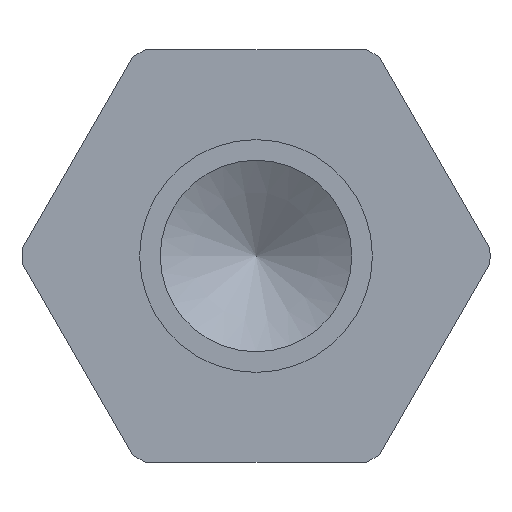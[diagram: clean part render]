
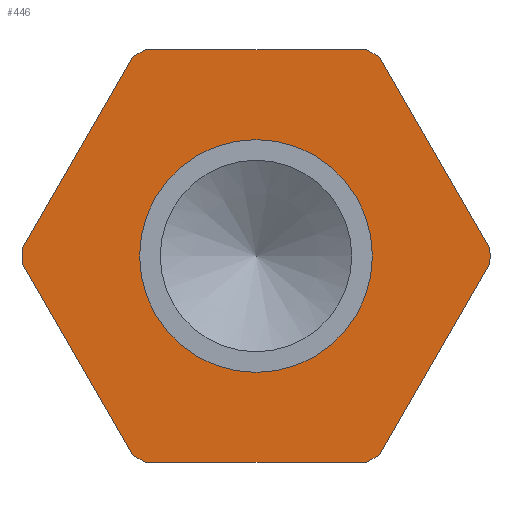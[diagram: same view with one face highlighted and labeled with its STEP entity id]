
A CAD part, left-side view. The second image highlights one B-rep face of the part: STEP entity #446.
In plain terms, the highlighted planar face has unit normal (-1, 0, 0).
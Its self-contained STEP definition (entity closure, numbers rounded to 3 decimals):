
#19=LINE($,#711,#43);
#22=LINE($,#717,#46);
#25=LINE($,#723,#49);
#28=LINE($,#729,#52);
#31=LINE($,#735,#55);
#33=LINE($,#743,#57);
#43=VECTOR($,#567,3.394);
#46=VECTOR($,#572,3.394);
#49=VECTOR($,#577,3.394);
#52=VECTOR($,#582,3.394);
#55=VECTOR($,#587,3.394);
#57=VECTOR($,#595,3.394);
#67=PLANE($,#489);
#79=FACE_BOUND($,#147,.T.);
#80=FACE_BOUND($,#148,.T.);
#147=EDGE_LOOP($,(#339));
#148=EDGE_LOOP($,(#340,#341,#342,#343,#344,#345,#346,#347,#348,#349,#350,
#351));
#191=CIRCLE($,#490,1.791);
#192=CIRCLE($,#491,3.6);
#193=CIRCLE($,#492,3.6);
#194=CIRCLE($,#493,3.6);
#195=CIRCLE($,#494,3.6);
#196=CIRCLE($,#495,3.6);
#197=CIRCLE($,#496,3.6);
#225=VERTEX_POINT($,#708);
#226=VERTEX_POINT($,#710);
#227=VERTEX_POINT($,#714);
#228=VERTEX_POINT($,#716);
#229=VERTEX_POINT($,#720);
#230=VERTEX_POINT($,#722);
#231=VERTEX_POINT($,#726);
#232=VERTEX_POINT($,#728);
#233=VERTEX_POINT($,#732);
#234=VERTEX_POINT($,#734);
#235=VERTEX_POINT($,#738);
#236=VERTEX_POINT($,#740);
#237=VERTEX_POINT($,#742);
#266=EDGE_CURVE($,#226,#225,#19,.T.);
#269=EDGE_CURVE($,#228,#227,#22,.T.);
#272=EDGE_CURVE($,#230,#229,#25,.T.);
#275=EDGE_CURVE($,#232,#231,#28,.T.);
#278=EDGE_CURVE($,#234,#233,#31,.T.);
#280=EDGE_CURVE($,#235,#235,#191,.T.);
#281=EDGE_CURVE($,#225,#236,#192,.T.);
#282=EDGE_CURVE($,#236,#237,#33,.T.);
#283=EDGE_CURVE($,#237,#234,#193,.T.);
#284=EDGE_CURVE($,#233,#232,#194,.T.);
#285=EDGE_CURVE($,#231,#230,#195,.T.);
#286=EDGE_CURVE($,#229,#228,#196,.T.);
#287=EDGE_CURVE($,#227,#226,#197,.T.);
#339=ORIENTED_EDGE($,*,*,#280,.F.);
#340=ORIENTED_EDGE($,*,*,#266,.T.);
#341=ORIENTED_EDGE($,*,*,#281,.T.);
#342=ORIENTED_EDGE($,*,*,#282,.T.);
#343=ORIENTED_EDGE($,*,*,#283,.T.);
#344=ORIENTED_EDGE($,*,*,#278,.T.);
#345=ORIENTED_EDGE($,*,*,#284,.T.);
#346=ORIENTED_EDGE($,*,*,#275,.T.);
#347=ORIENTED_EDGE($,*,*,#285,.T.);
#348=ORIENTED_EDGE($,*,*,#272,.T.);
#349=ORIENTED_EDGE($,*,*,#286,.T.);
#350=ORIENTED_EDGE($,*,*,#269,.T.);
#351=ORIENTED_EDGE($,*,*,#287,.T.);
#446=ADVANCED_FACE($,(#79,#80),#67,.T.);
#489=AXIS2_PLACEMENT_3D($,#737,#589,#590);
#490=AXIS2_PLACEMENT_3D($,#739,#591,#592);
#491=AXIS2_PLACEMENT_3D($,#741,#593,#594);
#492=AXIS2_PLACEMENT_3D($,#744,#596,#597);
#493=AXIS2_PLACEMENT_3D($,#745,#598,#599);
#494=AXIS2_PLACEMENT_3D($,#746,#600,#601);
#495=AXIS2_PLACEMENT_3D($,#747,#602,#603);
#496=AXIS2_PLACEMENT_3D($,#748,#604,#605);
#567=DIRECTION($,(0.,1.,0.));
#572=DIRECTION($,(0.,0.5,0.866));
#577=DIRECTION($,(0.,-0.5,0.866));
#582=DIRECTION($,(0.,-1.,0.));
#587=DIRECTION($,(0.,-0.5,-0.866));
#589=DIRECTION('center_axis',(-1.,0.,0.));
#590=DIRECTION('ref_axis',(0.,-0.866,-0.5));
#591=DIRECTION('center_axis',(-1.,0.,0.));
#592=DIRECTION('ref_axis',(0.,-0.5,0.866));
#593=DIRECTION('center_axis',(-1.,0.,0.));
#594=DIRECTION('ref_axis',(0.,-0.5,0.866));
#595=DIRECTION($,(0.,0.5,-0.866));
#596=DIRECTION('center_axis',(-1.,0.,0.));
#597=DIRECTION('ref_axis',(0.,-0.5,0.866));
#598=DIRECTION('center_axis',(-1.,0.,0.));
#599=DIRECTION('ref_axis',(0.,-0.5,0.866));
#600=DIRECTION('center_axis',(-1.,0.,0.));
#601=DIRECTION('ref_axis',(0.,-0.5,0.866));
#602=DIRECTION('center_axis',(-1.,0.,0.));
#603=DIRECTION('ref_axis',(0.,-0.5,0.866));
#604=DIRECTION('center_axis',(-1.,0.,0.));
#605=DIRECTION('ref_axis',(0.,-0.5,0.866));
#708=CARTESIAN_POINT('',(-15.281,3.832,3.175));
#710=CARTESIAN_POINT('',(-15.281,0.439,3.175));
#711=CARTESIAN_POINT($,(-15.281,1.466,3.175));
#714=CARTESIAN_POINT('',(-15.281,0.234,3.057));
#716=CARTESIAN_POINT('',(-15.281,-1.463,0.118));
#717=CARTESIAN_POINT($,(-15.281,-0.275,2.175));
#720=CARTESIAN_POINT('',(-15.281,-1.463,-0.118));
#722=CARTESIAN_POINT('',(-15.281,0.234,-3.057));
#723=CARTESIAN_POINT($,(-15.281,-1.29,-0.417));
#726=CARTESIAN_POINT('',(-15.281,0.439,-3.175));
#728=CARTESIAN_POINT('',(-15.281,3.832,-3.175));
#729=CARTESIAN_POINT($,(-15.281,1.457,-3.175));
#732=CARTESIAN_POINT('',(-15.281,4.037,-3.057));
#734=CARTESIAN_POINT('',(-15.281,5.734,-0.118));
#735=CARTESIAN_POINT($,(-15.281,5.22,-1.008));
#737=CARTESIAN_POINT('Origin',(-15.281,0.788,2.334));
#738=CARTESIAN_POINT('',(-15.281,1.24,1.551));
#739=CARTESIAN_POINT('Origin',(-15.281,2.135,0.));
#740=CARTESIAN_POINT('',(-15.281,4.037,3.057));
#741=CARTESIAN_POINT('Origin',(-15.281,2.135,0.));
#742=CARTESIAN_POINT('',(-15.281,5.734,0.118));
#743=CARTESIAN_POINT($,(-15.281,4.213,2.751));
#744=CARTESIAN_POINT('Origin',(-15.281,2.135,0.));
#745=CARTESIAN_POINT('Origin',(-15.281,2.135,0.));
#746=CARTESIAN_POINT('Origin',(-15.281,2.135,0.));
#747=CARTESIAN_POINT('Origin',(-15.281,2.135,0.));
#748=CARTESIAN_POINT('Origin',(-15.281,2.135,0.));
